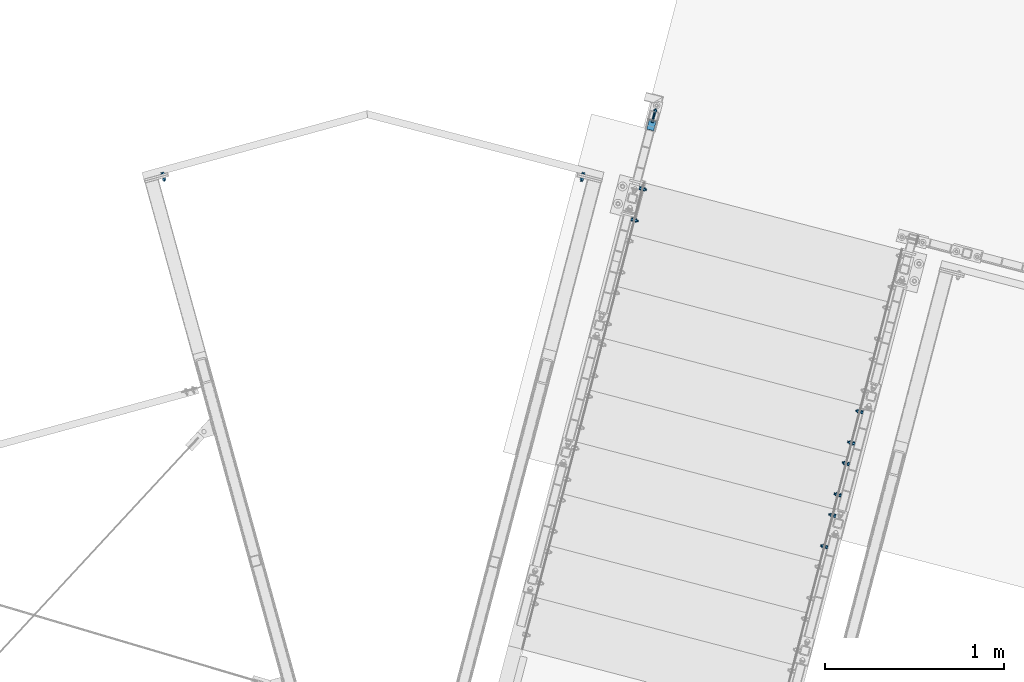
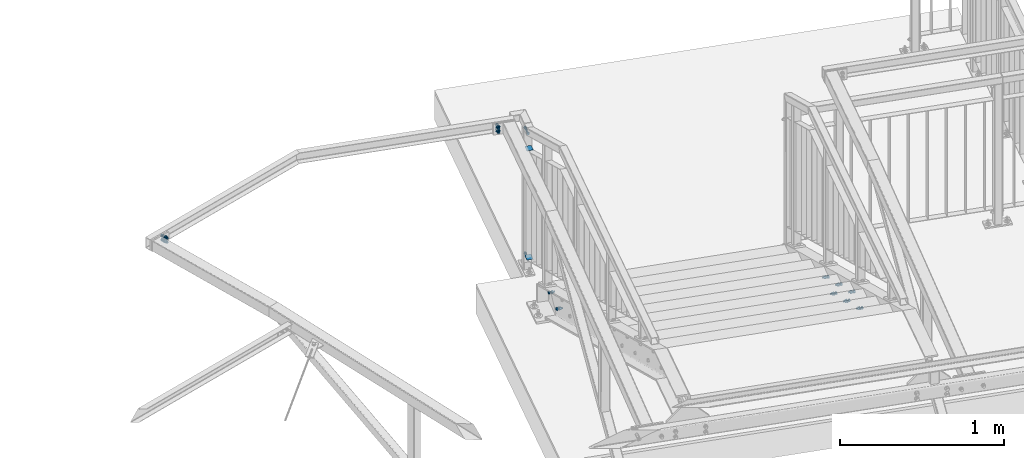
# One storey, part 162 of 169: 12 mechanical fasteners, 2 discrete accessories, 8 elements without a shape of their own.
"""IFC2X3 building model written with IfcOpenShell, lengths in millimetres."""

from ifc_helpers import new_model, si_unit, frame, frame_2d, origin_with_axes, origin_2d_with_axis, place, context, subcontext, project, spatial, polyline, circle_curve, parameter, trimmed, segment, composite_curve, circle, outline, extrude, clip, halfspace, source, transform, mapped, material, type_object, element, aggregate, save


model = new_model("IFC2X3")

# Units and contexts
model_context = context("Model", 3, precision=1e-05, world=origin_with_axes())
body_context = subcontext(model_context, "Body", "Model", "MODEL_VIEW")
ifc_project = project(units=[si_unit("LENGTHUNIT", "METRE", prefix="MILLI"), si_unit("AREAUNIT", "SQUARE_METRE"), si_unit("VOLUMEUNIT", "CUBIC_METRE"), si_unit("MASSUNIT", "GRAM", prefix="KILO"), si_unit("TIMEUNIT", "SECOND"), si_unit("PLANEANGLEUNIT", "RADIAN"), si_unit("SOLIDANGLEUNIT", "STERADIAN"), si_unit("THERMODYNAMICTEMPERATUREUNIT", "DEGREE_CELSIUS"), si_unit("LUMINOUSINTENSITYUNIT", "LUMEN")], contexts=[model_context])

# Site, building, storey
site_placement = place(None, origin_with_axes())
site = spatial("IfcSite", under=ifc_project, at=site_placement, Name="Undefined", CompositionType="ELEMENT")
building_placement = place(site_placement, origin_with_axes())
building = spatial("IfcBuilding", under=site, at=building_placement, Name="Undefined", CompositionType="ELEMENT")
storey_placement = place(building_placement, origin_with_axes())
storey = spatial("IfcBuildingStorey", under=building, at=storey_placement, Name="Undefined", CompositionType="ELEMENT", Elevation=0.0)

# Assembly, discrete accessories, mechanical fasteners
assembly_1_placement = place(storey_placement, origin_with_axes())
assembly_1 = element("IfcElementAssembly", 1, at=assembly_1_placement, inside=storey, Name="Steel Assembly", AssemblyPlace="NOTDEFINED", PredefinedType="RIGID_FRAME")
ifc_material_1 = material(Name="STEEL/S235")
discrete_accessory_type_1 = type_object("IfcDiscreteAccessoryType", Name="PORĘCZ")
discrete_accessory_1_placement = place(assembly_1_placement, frame((-10069.1579443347, 21656.4457939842, 13495.4183763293), z_axis=(-2.54700353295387e-10, 0.0, -1.0), x_axis=(-0.252628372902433, -0.967563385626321, 0.0)))
discrete_accessory_1 = element("IfcDiscreteAccessory", 2, at=discrete_accessory_1_placement, type_object=discrete_accessory_type_1, material=ifc_material_1, Name="PORĘCZ", ObjectType="BL40*3", context=body_context, shape_type="Clipping", body=[
    clip(clip(clip(extrude(outline(polyline([(116.020598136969, 20.0000000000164), (116.020598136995, -19.9999999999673), (64.8081392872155, -19.9999999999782), (64.8081392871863, 20.0000000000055), (116.020598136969, 20.0000000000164)])), frame((1.81898940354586e-12, -1.77635442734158e-15, -1.50000000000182), z_axis=(0.0, 0.0, 1.0), x_axis=(1.0, 0.0, 0.0)), (0.0, 0.0, 1.0), 3.0), halfspace(frame((64.8081392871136, 999.999999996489, -1.81898940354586e-12), z_axis=(1.0, 0.0, 0.0), x_axis=(-2.54700353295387e-10, 0.0, -1.0)), True)), halfspace(frame((115.669619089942, -2.07364792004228e-10, -1.5000000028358), z_axis=(0.973700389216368, 3.54230137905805e-15, -0.227832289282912), x_axis=(1.73472347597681e-18, -1.0, 0.0)), False)), halfspace(frame((59.8081392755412, 999.999999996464, -1.81898940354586e-12), z_axis=(1.0, 0.0, 0.0), x_axis=(-2.54700353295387e-10, 0.0, -1.0)), True)),
])
discrete_accessory_2_placement = place(assembly_1_placement, frame((-10086.8419304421, 21588.7163569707, 12685.4183763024), z_axis=(-2.54700353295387e-10, 0.0, -1.0), x_axis=(-0.252628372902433, -0.967563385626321, 0.0)))
discrete_accessory_2 = element("IfcDiscreteAccessory", 3, at=discrete_accessory_2_placement, type_object=discrete_accessory_type_1, material=ifc_material_1, Name="PORĘCZ", ObjectType="BL40*3", context=body_context, shape_type="Clipping", body=[
    clip(clip(extrude(outline(polyline([(46.0205980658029, 19.9999999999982), (46.0205980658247, -19.9999999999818), (-10.1918607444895, -19.9999999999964), (-10.1918607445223, 19.9999999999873), (46.0205980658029, 19.9999999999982)])), frame((1.81898940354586e-12, -1.77635442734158e-15, -1.50000000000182), z_axis=(0.0, 0.0, 1.0), x_axis=(1.0, 0.0, 0.0)), (0.0, 0.0, 1.0), 3.0), halfspace(frame((-10.1918607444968, 999.999999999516, 0.0), z_axis=(1.0, 0.0, 0.0), x_axis=(-2.54700353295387e-10, 0.0, -1.0)), True)), halfspace(frame((46.3715771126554, 4.52855601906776e-08, 1.50000000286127), z_axis=(-0.973700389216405, 3.54230137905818e-15, 0.227832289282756), x_axis=(1.73472347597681e-18, -1.0, 0.0)), True)),
])
ifc_material_2 = material(Name="Undefined")
discrete_accessory_type_2 = type_object("IfcDiscreteAccessoryType", Name="Bolt assembly")
shared_shape_1 = source(origin_with_axes(), body_context, "Body", "SweptSolid", [
    extrude(circle(Radius=6.5, at=origin_2d_with_axis()), frame((0.0, 4.89999999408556, 0.0), z_axis=(0.0, 1.0, 0.0), x_axis=(1.0, 0.0, 0.0)), (0.0, 0.0, 1.0), 50.1),
    extrude(circle(Radius=6.5, at=origin_2d_with_axis()), frame((0.0, 0.100000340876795, 0.0), z_axis=(0.0, 1.0, 0.0), x_axis=(1.0, 0.0, 0.0)), (0.0, 0.0, 1.0), 5.0),
    extrude(outline(polyline([(8.66025403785, 0.0), (4.330127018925, 7.50000000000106), (-4.330127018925, 7.50000000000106), (-8.66025403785, 0.0), (-4.330127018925, -7.50000000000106), (4.330127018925, -7.50000000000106), (8.66025403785, 0.0)])), frame((0.0, -8.39999975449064, 0.0), z_axis=(0.0, 1.0, 0.0), x_axis=(1.0, 0.0, 0.0)), (0.0, 0.0, 1.0), 6.4),
    extrude(circle(Radius=5.0, at=origin_2d_with_axis()), frame((0.0, -1.9999996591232, 0.0), z_axis=(0.0, 1.0, 0.0), x_axis=(1.0, 0.0, 0.0)), (0.0, 0.0, 1.0), 75.0),
    extrude(circle(Radius=10.0, at=origin_2d_with_axis()), frame((0.0, -1.9999996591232, 0.0), z_axis=(0.0, 1.0, 0.0), x_axis=(1.0, 0.0, 0.0)), (0.0, 0.0, 1.0), 2.0),
    extrude(circle(Radius=10.0, at=origin_2d_with_axis()), frame((0.0, 54.9999999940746, 0.0), z_axis=(0.0, 1.0, 0.0), x_axis=(1.0, 0.0, 0.0)), (0.0, 0.0, 1.0), 2.0),
    extrude(outline(polyline([(9.81495457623, 0.0), (4.907477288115, 8.5000000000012), (-4.907477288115, 8.5000000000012), (-9.81495457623, 0.0), (-4.907477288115, -8.5000000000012), (4.907477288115, -8.5000000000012), (9.81495457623, 0.0)])), frame((0.0, 56.999999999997, 0.0), z_axis=(0.0, 1.0, 0.0), x_axis=(1.0, 0.0, 0.0)), (0.0, 0.0, 1.0), 8.0),
])
mechanical_fastener_1_placement = place(assembly_1_placement, frame((-10085.5303191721, 21593.7398113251, 13590.4183763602), z_axis=(0.0, 0.0, 1.0), x_axis=(0.967563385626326, -0.252628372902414, 0.0)))
mechanical_fastener_1 = element("IfcMechanicalFastener", 4, at=mechanical_fastener_1_placement, type_object=discrete_accessory_type_2, material=ifc_material_2, Name="Bolt assembly", NominalDiameter=10.0, NominalLength=75.0, context=body_context, shape_type="MappedRepresentation", body=[
    mapped(shared_shape_1, transform((0.0, 0.0, 0.0))),
])
mechanical_fastener_2_placement = place(assembly_1_placement, frame((-10085.5303191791, 21593.7398113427, 12658.418376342), z_axis=(0.0, 0.0, 1.0), x_axis=(0.967563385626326, -0.252628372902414, 0.0)))
mechanical_fastener_2 = element("IfcMechanicalFastener", 5, at=mechanical_fastener_2_placement, type_object=discrete_accessory_type_2, material=ifc_material_2, Name="Bolt assembly", NominalDiameter=10.0, NominalLength=75.0, context=body_context, shape_type="MappedRepresentation", body=[
    mapped(shared_shape_1, transform((0.0, 0.0, 0.0))),
])
aggregate(assembly_1, [mechanical_fastener_1, mechanical_fastener_2, discrete_accessory_1, discrete_accessory_2])

# Assembly, mechanical fastener
assembly_2_placement = place(storey_placement, origin_with_axes())
assembly_2 = element("IfcElementAssembly", 6, at=assembly_2_placement, inside=storey, Name="Steel Assembly", AssemblyPlace="NOTDEFINED", PredefinedType="RIGID_FRAME")
shared_shape_2 = source(origin_with_axes(), body_context, "Body", "SweptSolid", [
    extrude(circle(Radius=7.5, at=origin_2d_with_axis()), frame((0.0, -7.40000057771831, 0.0), z_axis=(0.0, 1.0, 0.0), x_axis=(1.0, 0.0, 0.0)), (0.0, 0.0, 1.0), 7.5),
    extrude(circle(Radius=7.5, at=origin_2d_with_axis()), frame((0.0, -0.100000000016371, 0.0), z_axis=(0.0, 1.0, 0.0), x_axis=(1.0, 0.0, 0.0)), (0.0, 0.0, 1.0), 3.1),
    extrude(outline(polyline([(10.39230484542, 0.0), (5.19615242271, 9.00000000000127), (-5.19615242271, 9.00000000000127), (-10.39230484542, 0.0), (-5.19615242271, -9.00000000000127), (5.19615242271, -9.00000000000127), (10.39230484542, 0.0)])), frame((0.0, -17.5000005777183, 0.0), z_axis=(0.0, 1.0, 0.0), x_axis=(1.0, 0.0, 0.0)), (0.0, 0.0, 1.0), 7.5),
    extrude(circle(Radius=6.0, at=origin_2d_with_axis()), frame((0.0, -10.0, 0.0), z_axis=(0.0, 1.0, 0.0), x_axis=(1.0, 0.0, 0.0)), (0.0, 0.0, 1.0), 35.0),
    extrude(circle(Radius=12.0, at=origin_2d_with_axis()), frame((0.0, -10.0, 0.0), z_axis=(0.0, 1.0, 0.0), x_axis=(1.0, 0.0, 0.0)), (0.0, 0.0, 1.0), 2.5),
    extrude(circle(Radius=12.0, at=origin_2d_with_axis()), frame((0.0, 2.99999999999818, 0.0), z_axis=(0.0, 1.0, 0.0), x_axis=(1.0, 0.0, 0.0)), (0.0, 0.0, 1.0), 2.5),
    extrude(outline(polyline([(10.96965511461, 0.0), (5.484827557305, 9.50000000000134), (-5.484827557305, 9.50000000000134), (-10.96965511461, 0.0), (-5.484827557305, -9.50000000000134), (5.484827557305, -9.50000000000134), (10.96965511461, 0.0)])), frame((0.0, 5.50000000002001, 0.0), z_axis=(0.0, 1.0, 0.0), x_axis=(1.0, 0.0, 0.0)), (0.0, 0.0, 1.0), 10.0),
])
mechanical_fastener_3_placement = place(assembly_2_placement, frame((-9069.99330972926, 19426.9065063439, 13410.7712750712), z_axis=(-2.54700353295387e-10, 0.0, -1.0), x_axis=(-0.252628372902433, -0.967563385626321, 0.0)))
mechanical_fastener_3 = element("IfcMechanicalFastener", 7, at=mechanical_fastener_3_placement, type_object=discrete_accessory_type_2, material=ifc_material_2, Name="Bolt assembly", NominalDiameter=12.0, NominalLength=35.0, context=body_context, shape_type="MappedRepresentation", body=[
    mapped(shared_shape_2, transform((35.0000000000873, 1.45519152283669e-11, 15.0))),
])

assembly_3_placement = place(storey_placement, origin_with_axes())
assembly_3 = element("IfcElementAssembly", 8, at=assembly_3_placement, inside=storey, Name="Steel Assembly", AssemblyPlace="NOTDEFINED", PredefinedType="RIGID_FRAME")
mechanical_fastener_4_placement = place(assembly_3_placement, frame((-8994.44210453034, 19716.2666404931, 13263.3596919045), z_axis=(-2.54700353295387e-10, 0.0, -1.0), x_axis=(-0.252628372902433, -0.967563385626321, 0.0)))
mechanical_fastener_4 = element("IfcMechanicalFastener", 9, at=mechanical_fastener_4_placement, type_object=discrete_accessory_type_2, material=ifc_material_2, Name="Bolt assembly", NominalDiameter=12.0, NominalLength=35.0, context=body_context, shape_type="MappedRepresentation", body=[
    mapped(shared_shape_2, transform((35.0000000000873, 1.45519152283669e-11, 15.0))),
])

assembly_4_placement = place(storey_placement, origin_with_axes())
assembly_4 = element("IfcElementAssembly", 10, at=assembly_4_placement, inside=storey, Name="Steel Assembly", AssemblyPlace="NOTDEFINED", PredefinedType="RIGID_FRAME")
mechanical_fastener_5_placement = place(assembly_4_placement, frame((-8918.89089933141, 20005.6267746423, 13115.9481087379), z_axis=(-2.54700353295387e-10, 0.0, -1.0), x_axis=(-0.252628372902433, -0.967563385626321, 0.0)))
mechanical_fastener_5 = element("IfcMechanicalFastener", 11, at=mechanical_fastener_5_placement, type_object=discrete_accessory_type_2, material=ifc_material_2, Name="Bolt assembly", NominalDiameter=12.0, NominalLength=35.0, context=body_context, shape_type="MappedRepresentation", body=[
    mapped(shared_shape_2, transform((35.0000000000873, 1.45519152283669e-11, 15.0))),
])

# Mechanical fastener
shared_shape_3 = source(origin_with_axes(), body_context, "Body", "SweptSolid", [
    extrude(circle(Radius=7.5, at=origin_2d_with_axis()), frame((0.0, -7.40000057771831, 0.0), z_axis=(0.0, 1.0, 0.0), x_axis=(1.0, 0.0, 0.0)), (0.0, 0.0, 1.0), 7.5),
    extrude(outline(composite_curve([segment(polyline([(-10.0, 7.5), (10.0, 7.5)]), True, "CONTINUOUS"), segment(trimmed(circle_curve(frame_2d((10.0, 0.0), x_axis=(0.0, 1.0)), 7.5), [parameter(0.0)], [parameter(3.14159265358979)], False, "PARAMETER"), True, "CONTINUOUS"), segment(polyline([(10.0, -7.5), (-10.0, -7.5)]), True, "CONTINUOUS"), segment(trimmed(circle_curve(frame_2d((-10.0, 0.0), x_axis=(0.0, -1.0)), 7.5), [parameter(0.0)], [parameter(3.14159265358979)], False, "PARAMETER"), True, "DISCONTINUOUS")], self_intersect=False)), frame((0.0, -0.100000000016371, 0.0), z_axis=(0.0, 1.0, 0.0), x_axis=(1.0, 0.0, 0.0)), (0.0, 0.0, 1.0), 3.1),
    extrude(outline(polyline([(10.39230484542, 0.0), (5.19615242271, 9.00000000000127), (-5.19615242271, 9.00000000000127), (-10.39230484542, 0.0), (-5.19615242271, -9.00000000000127), (5.19615242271, -9.00000000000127), (10.39230484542, 0.0)])), frame((0.0, -17.5000005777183, 0.0), z_axis=(0.0, 1.0, 0.0), x_axis=(1.0, 0.0, 0.0)), (0.0, 0.0, 1.0), 7.5),
    extrude(circle(Radius=6.0, at=origin_2d_with_axis()), frame((0.0, -10.0, 0.0), z_axis=(0.0, 1.0, 0.0), x_axis=(1.0, 0.0, 0.0)), (0.0, 0.0, 1.0), 35.0),
    extrude(circle(Radius=12.0, at=origin_2d_with_axis()), frame((0.0, -10.0, 0.0), z_axis=(0.0, 1.0, 0.0), x_axis=(1.0, 0.0, 0.0)), (0.0, 0.0, 1.0), 2.5),
    extrude(circle(Radius=12.0, at=origin_2d_with_axis()), frame((0.0, 2.99999999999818, 0.0), z_axis=(0.0, 1.0, 0.0), x_axis=(1.0, 0.0, 0.0)), (0.0, 0.0, 1.0), 2.5),
    extrude(outline(polyline([(10.96965511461, 0.0), (5.484827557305, 9.50000000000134), (-5.484827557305, 9.50000000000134), (-10.96965511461, 0.0), (-5.484827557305, -9.50000000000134), (5.484827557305, -9.50000000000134), (10.96965511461, 0.0)])), frame((0.0, 5.50000000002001, 0.0), z_axis=(0.0, 1.0, 0.0), x_axis=(1.0, 0.0, 0.0)), (0.0, 0.0, 1.0), 10.0),
])
mechanical_fastener_6_placement = place(assembly_2_placement, frame((-9069.99330972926, 19426.9065063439, 13410.7712750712), z_axis=(-2.54700353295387e-10, 0.0, -1.0), x_axis=(-0.252628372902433, -0.967563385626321, 0.0)))
mechanical_fastener_6 = element("IfcMechanicalFastener", 12, at=mechanical_fastener_6_placement, type_object=discrete_accessory_type_2, material=ifc_material_2, Name="Bolt assembly", NominalDiameter=12.0, NominalLength=35.0, context=body_context, shape_type="MappedRepresentation", body=[
    mapped(shared_shape_3, transform((215.000000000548, 9.82254277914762e-11, 15.0))),
])

aggregate(assembly_2, [mechanical_fastener_6, mechanical_fastener_3])

shared_shape_4 = source(origin_with_axes(), body_context, "Body", "SweptSolid", [
    extrude(circle(Radius=7.5, at=origin_2d_with_axis()), frame((0.0, -7.40000057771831, 0.0), z_axis=(0.0, 1.0, 0.0), x_axis=(1.0, 0.0, 0.0)), (0.0, 0.0, 1.0), 7.5),
    extrude(outline(composite_curve([segment(polyline([(-10.0, 7.5), (10.0, 7.5)]), True, "CONTINUOUS"), segment(trimmed(circle_curve(frame_2d((10.0, 0.0), x_axis=(0.0, 1.0)), 7.5), [parameter(0.0)], [parameter(3.14159265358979)], False, "PARAMETER"), True, "CONTINUOUS"), segment(polyline([(10.0, -7.5), (-10.0, -7.5)]), True, "CONTINUOUS"), segment(trimmed(circle_curve(frame_2d((-10.0, 0.0), x_axis=(0.0, -1.0)), 7.5), [parameter(0.0)], [parameter(3.14159265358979)], False, "PARAMETER"), True, "DISCONTINUOUS")], self_intersect=False)), frame((0.0, -0.100000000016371, 0.0), z_axis=(0.0, 1.0, 0.0), x_axis=(1.0, 0.0, 0.0)), (0.0, 0.0, 1.0), 3.1),
    extrude(outline(polyline([(10.39230484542, 0.0), (5.19615242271, 9.00000000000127), (-5.19615242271, 9.00000000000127), (-10.39230484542, 0.0), (-5.19615242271, -9.00000000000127), (5.19615242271, -9.00000000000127), (10.39230484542, 0.0)])), frame((0.0, -17.5000005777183, 0.0), z_axis=(0.0, 1.0, 0.0), x_axis=(1.0, 0.0, 0.0)), (0.0, 0.0, 1.0), 7.5),
    extrude(circle(Radius=6.0, at=origin_2d_with_axis()), frame((0.0, -10.0, 0.0), z_axis=(0.0, 1.0, 0.0), x_axis=(1.0, 0.0, 0.0)), (0.0, 0.0, 1.0), 35.0),
    extrude(circle(Radius=12.0, at=origin_2d_with_axis()), frame((0.0, -10.0, 0.0), z_axis=(0.0, 1.0, 0.0), x_axis=(1.0, 0.0, 0.0)), (0.0, 0.0, 1.0), 2.5),
    extrude(circle(Radius=12.0, at=origin_2d_with_axis()), frame((0.0, 2.99999999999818, 0.0), z_axis=(0.0, 1.0, 0.0), x_axis=(1.0, 0.0, 0.0)), (0.0, 0.0, 1.0), 2.5),
    extrude(outline(polyline([(10.96965511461, 0.0), (5.484827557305, 9.50000000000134), (-5.484827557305, 9.50000000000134), (-10.96965511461, 0.0), (-5.484827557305, -9.50000000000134), (5.484827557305, -9.50000000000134), (10.96965511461, 0.0)])), frame((0.0, 5.50000000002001, 0.0), z_axis=(0.0, 1.0, 0.0), x_axis=(1.0, 0.0, 0.0)), (0.0, 0.0, 1.0), 10.0),
])
mechanical_fastener_7_placement = place(assembly_3_placement, frame((-8994.44210453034, 19716.2666404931, 13263.3596919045), z_axis=(-2.54700353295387e-10, 0.0, -1.0), x_axis=(-0.252628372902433, -0.967563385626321, 0.0)))
mechanical_fastener_7 = element("IfcMechanicalFastener", 13, at=mechanical_fastener_7_placement, type_object=discrete_accessory_type_2, material=ifc_material_2, Name="Bolt assembly", NominalDiameter=12.0, NominalLength=35.0, context=body_context, shape_type="MappedRepresentation", body=[
    mapped(shared_shape_4, transform((215.000000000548, 9.82254277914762e-11, 15.0))),
])

aggregate(assembly_3, [mechanical_fastener_7, mechanical_fastener_4])

shared_shape_5 = source(origin_with_axes(), body_context, "Body", "SweptSolid", [
    extrude(circle(Radius=7.5, at=origin_2d_with_axis()), frame((0.0, -7.40000057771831, 0.0), z_axis=(0.0, 1.0, 0.0), x_axis=(1.0, 0.0, 0.0)), (0.0, 0.0, 1.0), 7.5),
    extrude(outline(composite_curve([segment(polyline([(-10.0, 7.5), (10.0, 7.5)]), True, "CONTINUOUS"), segment(trimmed(circle_curve(frame_2d((10.0, 0.0), x_axis=(0.0, 1.0)), 7.5), [parameter(0.0)], [parameter(3.14159265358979)], False, "PARAMETER"), True, "CONTINUOUS"), segment(polyline([(10.0, -7.5), (-10.0, -7.5)]), True, "CONTINUOUS"), segment(trimmed(circle_curve(frame_2d((-10.0, 0.0), x_axis=(0.0, -1.0)), 7.5), [parameter(0.0)], [parameter(3.14159265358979)], False, "PARAMETER"), True, "DISCONTINUOUS")], self_intersect=False)), frame((0.0, -0.100000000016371, 0.0), z_axis=(0.0, 1.0, 0.0), x_axis=(1.0, 0.0, 0.0)), (0.0, 0.0, 1.0), 3.1),
    extrude(outline(polyline([(10.39230484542, 0.0), (5.19615242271, 9.00000000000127), (-5.19615242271, 9.00000000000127), (-10.39230484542, 0.0), (-5.19615242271, -9.00000000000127), (5.19615242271, -9.00000000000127), (10.39230484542, 0.0)])), frame((0.0, -17.5000005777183, 0.0), z_axis=(0.0, 1.0, 0.0), x_axis=(1.0, 0.0, 0.0)), (0.0, 0.0, 1.0), 7.5),
    extrude(circle(Radius=6.0, at=origin_2d_with_axis()), frame((0.0, -10.0, 0.0), z_axis=(0.0, 1.0, 0.0), x_axis=(1.0, 0.0, 0.0)), (0.0, 0.0, 1.0), 35.0),
    extrude(circle(Radius=12.0, at=origin_2d_with_axis()), frame((0.0, -10.0, 0.0), z_axis=(0.0, 1.0, 0.0), x_axis=(1.0, 0.0, 0.0)), (0.0, 0.0, 1.0), 2.5),
    extrude(circle(Radius=12.0, at=origin_2d_with_axis()), frame((0.0, 2.99999999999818, 0.0), z_axis=(0.0, 1.0, 0.0), x_axis=(1.0, 0.0, 0.0)), (0.0, 0.0, 1.0), 2.5),
    extrude(outline(polyline([(10.96965511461, 0.0), (5.484827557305, 9.50000000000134), (-5.484827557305, 9.50000000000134), (-10.96965511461, 0.0), (-5.484827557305, -9.50000000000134), (5.484827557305, -9.50000000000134), (10.96965511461, 0.0)])), frame((0.0, 5.50000000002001, 0.0), z_axis=(0.0, 1.0, 0.0), x_axis=(1.0, 0.0, 0.0)), (0.0, 0.0, 1.0), 10.0),
])
mechanical_fastener_8_placement = place(assembly_4_placement, frame((-8918.89089933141, 20005.6267746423, 13115.9481087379), z_axis=(-2.54700353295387e-10, 0.0, -1.0), x_axis=(-0.252628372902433, -0.967563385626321, 0.0)))
mechanical_fastener_8 = element("IfcMechanicalFastener", 14, at=mechanical_fastener_8_placement, type_object=discrete_accessory_type_2, material=ifc_material_2, Name="Bolt assembly", NominalDiameter=12.0, NominalLength=35.0, context=body_context, shape_type="MappedRepresentation", body=[
    mapped(shared_shape_5, transform((215.000000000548, 9.82254277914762e-11, 15.0))),
])

aggregate(assembly_4, [mechanical_fastener_8, mechanical_fastener_5])

# Assembly, mechanical fastener
assembly_5_placement = place(storey_placement, origin_with_axes())
assembly_5 = element("IfcElementAssembly", 15, at=assembly_5_placement, inside=storey, Name="Steel Assembly", AssemblyPlace="NOTDEFINED", PredefinedType="RIGID_FRAME")
shared_shape_6 = source(origin_with_axes(), body_context, "Body", "SweptSolid", [
    extrude(circle(Radius=7.5, at=origin_2d_with_axis()), frame((0.0, -0.100000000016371, 0.0), z_axis=(0.0, 1.0, 0.0), x_axis=(1.0, 0.0, 0.0)), (0.0, 0.0, 1.0), 3.1),
    extrude(circle(Radius=7.5, at=origin_2d_with_axis()), frame((0.0, -7.40000057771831, 0.0), z_axis=(0.0, 1.0, 0.0), x_axis=(1.0, 0.0, 0.0)), (0.0, 0.0, 1.0), 7.5),
    extrude(outline(polyline([(10.39230484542, 0.0), (5.19615242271, 9.00000000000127), (-5.19615242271, 9.00000000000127), (-10.39230484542, 0.0), (-5.19615242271, -9.00000000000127), (5.19615242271, -9.00000000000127), (10.39230484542, 0.0)])), frame((0.0, -17.5000005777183, 0.0), z_axis=(0.0, 1.0, 0.0), x_axis=(1.0, 0.0, 0.0)), (0.0, 0.0, 1.0), 7.5),
    extrude(circle(Radius=6.0, at=origin_2d_with_axis()), frame((0.0, -10.0, 0.0), z_axis=(0.0, 1.0, 0.0), x_axis=(1.0, 0.0, 0.0)), (0.0, 0.0, 1.0), 35.0),
    extrude(circle(Radius=12.0, at=origin_2d_with_axis()), frame((0.0, -10.0, 0.0), z_axis=(0.0, 1.0, 0.0), x_axis=(1.0, 0.0, 0.0)), (0.0, 0.0, 1.0), 2.5),
    extrude(circle(Radius=12.0, at=origin_2d_with_axis()), frame((0.0, 2.99999999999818, 0.0), z_axis=(0.0, 1.0, 0.0), x_axis=(1.0, 0.0, 0.0)), (0.0, 0.0, 1.0), 2.5),
    extrude(outline(polyline([(10.96965511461, 0.0), (5.484827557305, 9.50000000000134), (-5.484827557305, 9.50000000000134), (-10.96965511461, 0.0), (-5.484827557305, -9.50000000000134), (5.484827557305, -9.50000000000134), (10.96965511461, 0.0)])), frame((0.0, 5.50000000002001, 0.0), z_axis=(0.0, 1.0, 0.0), x_axis=(1.0, 0.0, 0.0)), (0.0, 0.0, 1.0), 10.0),
])
mechanical_fastener_9_placement = place(assembly_5_placement, frame((-10209.6952388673, 20959.8544367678, 12673.7133592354), z_axis=(-2.54700353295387e-10, 0.0, -1.0), x_axis=(0.252628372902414, 0.967563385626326, 0.0)))
mechanical_fastener_9 = element("IfcMechanicalFastener", 16, at=mechanical_fastener_9_placement, type_object=discrete_accessory_type_2, material=ifc_material_2, Name="Bolt assembly", NominalDiameter=12.0, NominalLength=35.0, context=body_context, shape_type="MappedRepresentation", body=[
    mapped(shared_shape_6, transform((265.000000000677, 1.20053300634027e-10, 15.0))),
])
aggregate(assembly_5, [mechanical_fastener_9])

assembly_6_placement = place(storey_placement, origin_with_axes())
assembly_6 = element("IfcElementAssembly", 17, at=assembly_6_placement, inside=storey, Name="Steel Assembly", AssemblyPlace="NOTDEFINED", PredefinedType="RIGID_FRAME")
shared_shape_7 = source(origin_with_axes(), body_context, "Body", "SweptSolid", [
    extrude(circle(Radius=7.5, at=origin_2d_with_axis()), frame((0.0, -7.40000057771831, 0.0), z_axis=(0.0, 1.0, 0.0), x_axis=(1.0, 0.0, 0.0)), (0.0, 0.0, 1.0), 7.5),
    extrude(outline(composite_curve([segment(polyline([(-10.0, 7.5), (10.0, 7.5)]), True, "CONTINUOUS"), segment(trimmed(circle_curve(frame_2d((10.0, 0.0), x_axis=(0.0, 1.0)), 7.5), [parameter(0.0)], [parameter(3.14159265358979)], False, "PARAMETER"), True, "CONTINUOUS"), segment(polyline([(10.0, -7.5), (-10.0, -7.5)]), True, "CONTINUOUS"), segment(trimmed(circle_curve(frame_2d((-10.0, 0.0), x_axis=(0.0, -1.0)), 7.5), [parameter(0.0)], [parameter(3.14159265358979)], False, "PARAMETER"), True, "DISCONTINUOUS")], self_intersect=False)), frame((0.0, -0.100000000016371, 0.0), z_axis=(0.0, 1.0, 0.0), x_axis=(1.0, 0.0, 0.0)), (0.0, 0.0, 1.0), 3.1),
    extrude(outline(polyline([(10.39230484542, 0.0), (5.19615242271, 9.00000000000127), (-5.19615242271, 9.00000000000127), (-10.39230484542, 0.0), (-5.19615242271, -9.00000000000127), (5.19615242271, -9.00000000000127), (10.39230484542, 0.0)])), frame((0.0, -17.5000005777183, 0.0), z_axis=(0.0, 1.0, 0.0), x_axis=(1.0, 0.0, 0.0)), (0.0, 0.0, 1.0), 7.5),
    extrude(circle(Radius=6.0, at=origin_2d_with_axis()), frame((0.0, -10.0, 0.0), z_axis=(0.0, 1.0, 0.0), x_axis=(1.0, 0.0, 0.0)), (0.0, 0.0, 1.0), 35.0),
    extrude(circle(Radius=12.0, at=origin_2d_with_axis()), frame((0.0, -10.0, 0.0), z_axis=(0.0, 1.0, 0.0), x_axis=(1.0, 0.0, 0.0)), (0.0, 0.0, 1.0), 2.5),
    extrude(circle(Radius=12.0, at=origin_2d_with_axis()), frame((0.0, 2.99999999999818, 0.0), z_axis=(0.0, 1.0, 0.0), x_axis=(1.0, 0.0, 0.0)), (0.0, 0.0, 1.0), 2.5),
    extrude(outline(polyline([(10.96965511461, 0.0), (5.484827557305, 9.50000000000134), (-5.484827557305, 9.50000000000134), (-10.96965511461, 0.0), (-5.484827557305, -9.50000000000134), (5.484827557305, -9.50000000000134), (10.96965511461, 0.0)])), frame((0.0, 5.50000000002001, 0.0), z_axis=(0.0, 1.0, 0.0), x_axis=(1.0, 0.0, 0.0)), (0.0, 0.0, 1.0), 10.0),
])
mechanical_fastener_10_placement = place(assembly_6_placement, frame((-10209.6952388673, 20959.8544367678, 12673.7133592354), z_axis=(-2.54700353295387e-10, 0.0, -1.0), x_axis=(0.252628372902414, 0.967563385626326, 0.0)))
mechanical_fastener_10 = element("IfcMechanicalFastener", 18, at=mechanical_fastener_10_placement, type_object=discrete_accessory_type_2, material=ifc_material_2, Name="Bolt assembly", NominalDiameter=12.0, NominalLength=35.0, context=body_context, shape_type="MappedRepresentation", body=[
    mapped(shared_shape_7, transform((85.0000000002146, 3.63797880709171e-11, 15.0))),
])
aggregate(assembly_6, [mechanical_fastener_10])

assembly_7_placement = place(storey_placement, origin_with_axes())
assembly_7 = element("IfcElementAssembly", 19, at=assembly_7_placement, inside=storey, Name="Steel Assembly", AssemblyPlace="NOTDEFINED", PredefinedType="RIGID_FRAME")
shared_shape_8 = source(origin_with_axes(), body_context, "Body", "SweptSolid", [
    extrude(circle(Radius=7.5, at=origin_2d_with_axis()), frame((0.0, -10.3999999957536, 0.0), z_axis=(0.0, 1.0, 0.0), x_axis=(1.0, 0.0, 0.0)), (0.0, 0.0, 1.0), 10.0),
    extrude(outline(composite_curve([segment(polyline([(7.5, 7.5), (7.5, -7.5)]), True, "CONTINUOUS"), segment(trimmed(circle_curve(frame_2d((0.0, -7.5), x_axis=(1.0, 0.0)), 7.5), [parameter(0.0)], [parameter(3.14159265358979)], False, "PARAMETER"), True, "CONTINUOUS"), segment(polyline([(-7.5, -7.5), (-7.5, 7.5)]), True, "CONTINUOUS"), segment(trimmed(circle_curve(frame_2d((0.0, 7.5), x_axis=(-1.0, 0.0)), 7.5), [parameter(0.0)], [parameter(3.14159265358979)], False, "PARAMETER"), True, "DISCONTINUOUS")], self_intersect=False)), frame((0.0, 0.400000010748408, 0.0), z_axis=(0.0, 1.0, 0.0), x_axis=(1.0, 0.0, 0.0)), (0.0, 0.0, 1.0), 10.1),
    extrude(outline(polyline([(10.39230484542, 0.0), (5.19615242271, 9.00000000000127), (-5.19615242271, 9.00000000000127), (-10.39230484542, 0.0), (-5.19615242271, -9.00000000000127), (5.19615242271, -9.00000000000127), (10.39230484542, 0.0)])), frame((0.0, -20.9999999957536, 0.0), z_axis=(0.0, 1.0, 0.0), x_axis=(1.0, 0.0, 0.0)), (0.0, 0.0, 1.0), 7.5),
    extrude(circle(Radius=6.0, at=origin_2d_with_axis()), frame((0.0, -13.4999999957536, 0.0), z_axis=(0.0, 1.0, 0.0), x_axis=(1.0, 0.0, 0.0)), (0.0, 0.0, 1.0), 45.0),
    extrude(circle(Radius=12.0, at=origin_2d_with_axis()), frame((0.0, -13.4999999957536, 0.0), z_axis=(0.0, 1.0, 0.0), x_axis=(1.0, 0.0, 0.0)), (0.0, 0.0, 1.0), 3.0),
    extrude(circle(Radius=12.0, at=origin_2d_with_axis()), frame((0.0, 10.500000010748, 0.0), z_axis=(0.0, 1.0, 0.0), x_axis=(1.0, 0.0, 0.0)), (0.0, 0.0, 1.0), 3.0),
    extrude(outline(polyline([(10.96965511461, 0.0), (5.484827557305, 9.50000000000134), (-5.484827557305, 9.50000000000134), (-10.96965511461, 0.0), (-5.484827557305, -9.50000000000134), (5.484827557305, -9.50000000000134), (10.96965511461, 0.0)])), frame((0.0, 13.500000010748, 0.0), z_axis=(0.0, 1.0, 0.0), x_axis=(1.0, 0.0, 0.0)), (0.0, 0.0, 1.0), 10.0),
])
mechanical_fastener_11_placement = place(assembly_7_placement, frame((-12884.0977078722, 21269.4816193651, 13910.4176077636), z_axis=(0.964246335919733, 0.265007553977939, 0.0), x_axis=(0.0, 0.0, 1.0)))
mechanical_fastener_11 = element("IfcMechanicalFastener", 20, at=mechanical_fastener_11_placement, type_object=discrete_accessory_type_2, material=ifc_material_2, Name="Bolt assembly", NominalDiameter=12.0, NominalLength=45.0, context=body_context, shape_type="MappedRepresentation", body=[
    mapped(shared_shape_8, transform((25.0000000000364, -5.45696821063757e-11, 70.0000000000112))),
    mapped(shared_shape_8, transform((55.0000000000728, -7.27595761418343e-11, 70.0000000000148))),
])
aggregate(assembly_7, [mechanical_fastener_11])

assembly_8_placement = place(storey_placement, origin_with_axes())
assembly_8 = element("IfcElementAssembly", 21, at=assembly_8_placement, inside=storey, Name="Steel Assembly", AssemblyPlace="NOTDEFINED", PredefinedType="RIGID_FRAME")
shared_shape_9 = source(origin_with_axes(), body_context, "Body", "SweptSolid", [
    extrude(circle(Radius=7.5, at=origin_2d_with_axis()), frame((0.0, -10.3999999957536, 0.0), z_axis=(0.0, 1.0, 0.0), x_axis=(1.0, 0.0, 0.0)), (0.0, 0.0, 1.0), 10.0),
    extrude(outline(composite_curve([segment(polyline([(7.5, 7.5), (7.5, -7.5)]), True, "CONTINUOUS"), segment(trimmed(circle_curve(frame_2d((0.0, -7.5), x_axis=(1.0, 0.0)), 7.5), [parameter(0.0)], [parameter(3.14159265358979)], False, "PARAMETER"), True, "CONTINUOUS"), segment(polyline([(-7.5, -7.5), (-7.5, 7.5)]), True, "CONTINUOUS"), segment(trimmed(circle_curve(frame_2d((0.0, 7.5), x_axis=(-1.0, 0.0)), 7.5), [parameter(0.0)], [parameter(3.14159265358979)], False, "PARAMETER"), True, "DISCONTINUOUS")], self_intersect=False)), frame((0.0, 0.400000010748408, 0.0), z_axis=(0.0, 1.0, 0.0), x_axis=(1.0, 0.0, 0.0)), (0.0, 0.0, 1.0), 10.1),
    extrude(outline(polyline([(10.39230484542, 0.0), (5.19615242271, 9.00000000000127), (-5.19615242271, 9.00000000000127), (-10.39230484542, 0.0), (-5.19615242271, -9.00000000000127), (5.19615242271, -9.00000000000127), (10.39230484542, 0.0)])), frame((0.0, -20.9999999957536, 0.0), z_axis=(0.0, 1.0, 0.0), x_axis=(1.0, 0.0, 0.0)), (0.0, 0.0, 1.0), 7.5),
    extrude(circle(Radius=6.0, at=origin_2d_with_axis()), frame((0.0, -13.4999999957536, 0.0), z_axis=(0.0, 1.0, 0.0), x_axis=(1.0, 0.0, 0.0)), (0.0, 0.0, 1.0), 45.0),
    extrude(circle(Radius=12.0, at=origin_2d_with_axis()), frame((0.0, -13.4999999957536, 0.0), z_axis=(0.0, 1.0, 0.0), x_axis=(1.0, 0.0, 0.0)), (0.0, 0.0, 1.0), 3.0),
    extrude(circle(Radius=12.0, at=origin_2d_with_axis()), frame((0.0, 10.500000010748, 0.0), z_axis=(0.0, 1.0, 0.0), x_axis=(1.0, 0.0, 0.0)), (0.0, 0.0, 1.0), 3.0),
    extrude(outline(polyline([(10.96965511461, 0.0), (5.484827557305, 9.50000000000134), (-5.484827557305, 9.50000000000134), (-10.96965511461, 0.0), (-5.484827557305, -9.50000000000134), (5.484827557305, -9.50000000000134), (10.96965511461, 0.0)])), frame((0.0, 13.500000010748, 0.0), z_axis=(0.0, 1.0, 0.0), x_axis=(1.0, 0.0, 0.0)), (0.0, 0.0, 1.0), 10.0),
])
mechanical_fastener_12_placement = place(assembly_8_placement, frame((-10407.9065753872, 21269.4711626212, 13990.417607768), z_axis=(-0.967563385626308, 0.252628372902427, -1.72000000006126e-07), x_axis=(-2.54700353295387e-10, 0.0, -1.0)))
mechanical_fastener_12 = element("IfcMechanicalFastener", 22, at=mechanical_fastener_12_placement, type_object=discrete_accessory_type_2, material=ifc_material_2, Name="Bolt assembly", NominalDiameter=12.0, NominalLength=45.0, context=body_context, shape_type="MappedRepresentation", body=[
    mapped(shared_shape_9, transform((25.0000000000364, -5.45696821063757e-11, 70.0000000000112))),
    mapped(shared_shape_9, transform((55.0000000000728, -7.27595761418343e-11, 70.0000000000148))),
])
aggregate(assembly_8, [mechanical_fastener_12])

save(model, "model.ifc")
